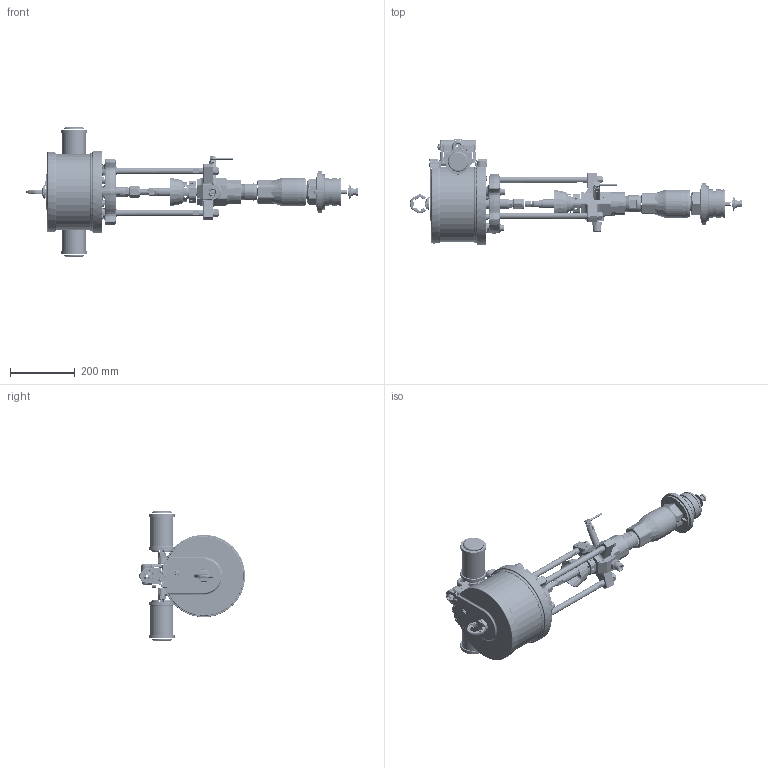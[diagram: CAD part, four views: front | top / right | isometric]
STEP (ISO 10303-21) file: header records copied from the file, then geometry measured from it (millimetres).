
FILE_DESCRIPTION((''),'2;1');
FILE_NAME('P61LCS-EN-F_PRT','2020-05-28T13:58:43',('qusrh3'),(''),'CREO PARAMETRIC BY PTC INC, 2019030','CREO PARAMETRIC BY PTC INC, 2019030','');
FILE_SCHEMA(('CONFIG_CONTROL_DESIGN'));
Products named in the file (1): P61LCS-EN-F_PRT
Bounding box: 1027.56 x 327.61 x 399.76 mm (x, y, z)
Surface area: 1118848.6 mm2 (no closed solid volume)
Topology: 0 solids, 711 shells, 3714 faces, 16154 edges, 12667 vertices
Faces by surface type: plane 1141, cylinder 844, cone 665, torus 579, bspline 471, sphere 14
Entity records: 205674 total; most frequent: CARTESIAN_POINT 88316, DIRECTION 22311, ORIENTED_EDGE 21129, EDGE_CURVE 16139, VERTEX_POINT 12667, AXIS2_PLACEMENT_3D 8424, B_SPLINE_CURVE_WITH_KNOTS 5495, VECTOR 5463
